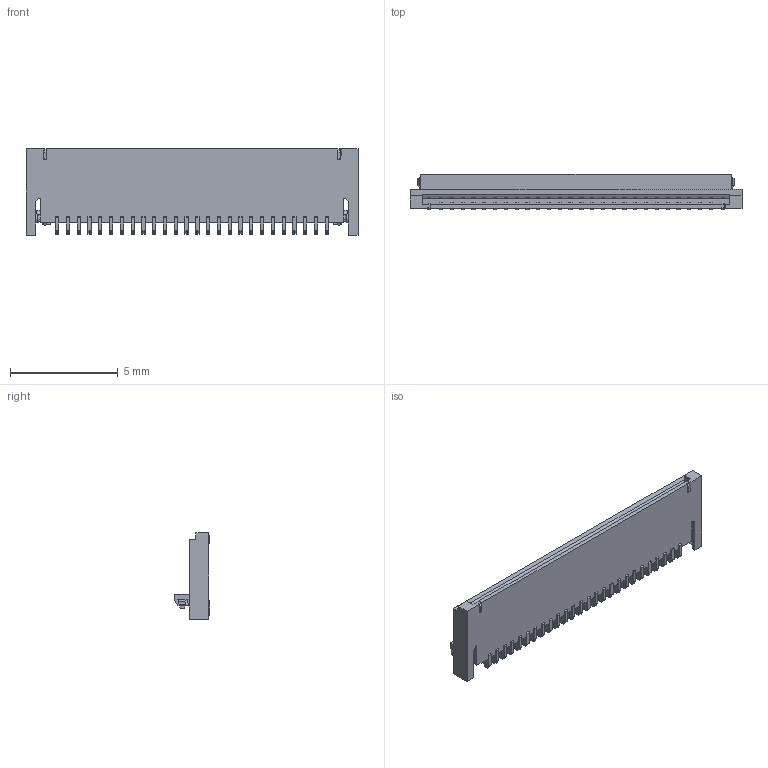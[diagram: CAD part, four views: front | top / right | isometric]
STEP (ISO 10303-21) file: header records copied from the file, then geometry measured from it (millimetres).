
FILE_DESCRIPTION (( 'STEP AP203' ), '1' );
FILE_NAME ('FF14A-26C-R11DL-B-3H(Open).STEP', '2012-04-18T02:20:02', ( '' ), ( '' ), 'SwSTEP 2.0', 'SolidWorks 2011', '' );
FILE_SCHEMA (( 'CONFIG_CONTROL_DESIGN' ));
Length unit declared in the file: millimetre
Products named in the file (1): FF14A-26C-R11DL-B-3H(Open)
Bounding box: 15.4 x 1.66 x 4 mm (x, y, z)
Volume: 39.7 mm3; surface area: 269.1 mm2
Topology: 1 solids, 1 shells, 1510 faces, 4428 edges, 2949 vertices
Faces by surface type: plane 1088, cylinder 419, cone 3
Entity records: 50236 total; most frequent: CARTESIAN_POINT 9335, ORIENTED_EDGE 8856, DIRECTION 8175, EDGE_CURVE 4428, VECTOR 3417, LINE 3417, VERTEX_POINT 2949, AXIS2_PLACEMENT_3D 2379
